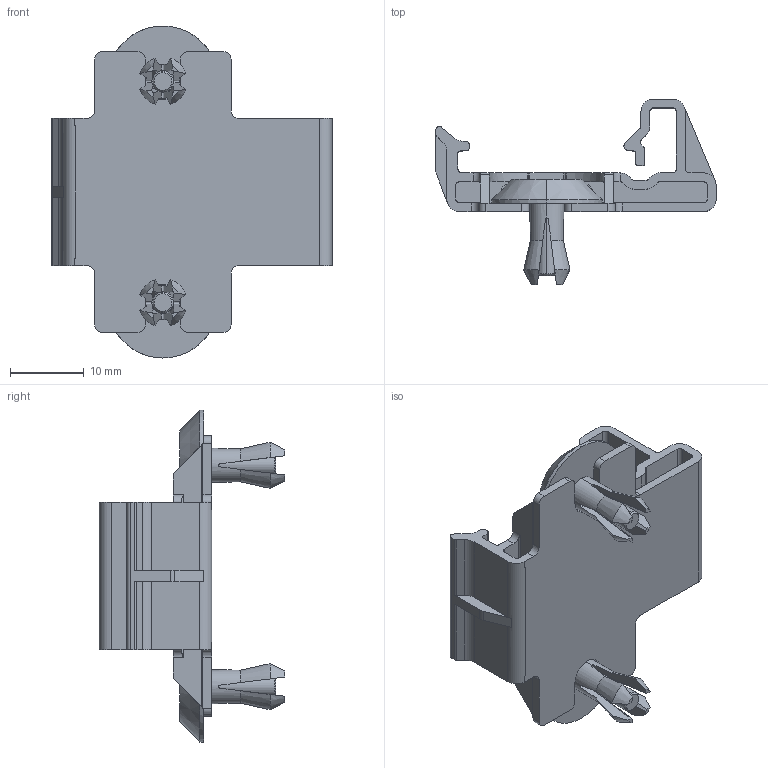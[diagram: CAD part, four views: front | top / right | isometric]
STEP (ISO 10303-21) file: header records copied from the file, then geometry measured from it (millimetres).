
FILE_DESCRIPTION (( 'STEP AP214' ), '1' );
FILE_NAME ('083548-02-14.STEP', '2014-11-25T14:10:31', ( 'Conductix-Wampfler GmbH' ), ( 'IT' ), 'SwSTEP 2.0', 'SolidWorks 2012', '' );
FILE_SCHEMA (( 'AUTOMOTIVE_DESIGN' ));
Length unit declared in the file: millimetre
Products named in the file (1): 083548-02-14
Bounding box: 38 x 25.15 x 45 mm (x, y, z)
Volume: 4457.7 mm3; surface area: 6651.8 mm2
Topology: 1 solids, 1 shells, 316 faces, 891 edges, 586 vertices
Faces by surface type: plane 144, cylinder 140, cone 32
Entity records: 10485 total; most frequent: CARTESIAN_POINT 2322, ORIENTED_EDGE 1782, DIRECTION 1681, EDGE_CURVE 891, AXIS2_PLACEMENT_3D 609, VERTEX_POINT 586, VECTOR 463, LINE 463
